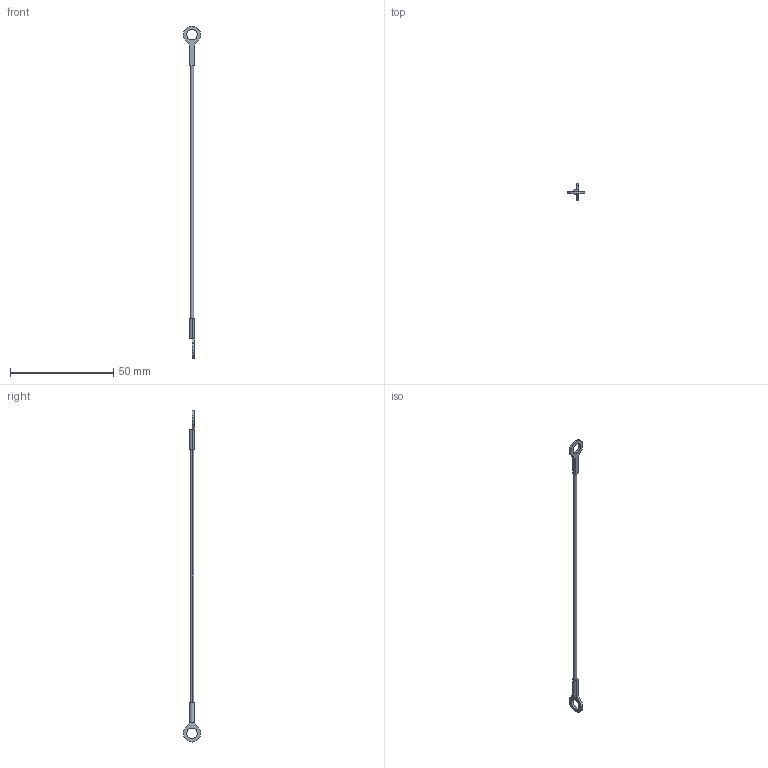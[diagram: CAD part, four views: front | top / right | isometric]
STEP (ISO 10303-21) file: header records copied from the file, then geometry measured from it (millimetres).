
FILE_DESCRIPTION (( 'STEP AP203' ), '1' );
FILE_NAME ('Default.step', '2026-03-23T14:45:42', ( '' ), ( '' ), 'SwSTEP 2.0', 'SolidWorks 2019', '' );
FILE_SCHEMA (( 'CONFIG_CONTROL_DESIGN' ));
Length unit declared in the file: millimetre
Products named in the file (1): Default
Bounding box: 8.38 x 8.38 x 160.78 mm (x, y, z)
Volume: 429.9 mm3; surface area: 1038 mm2
Topology: 1 solids, 1 shells, 27 faces, 65 edges, 42 vertices
Faces by surface type: plane 16, cylinder 11
Entity records: 874 total; most frequent: DIRECTION 143, CARTESIAN_POINT 135, ORIENTED_EDGE 130, EDGE_CURVE 65, AXIS2_PLACEMENT_3D 50, VECTOR 43, LINE 43, VERTEX_POINT 42
